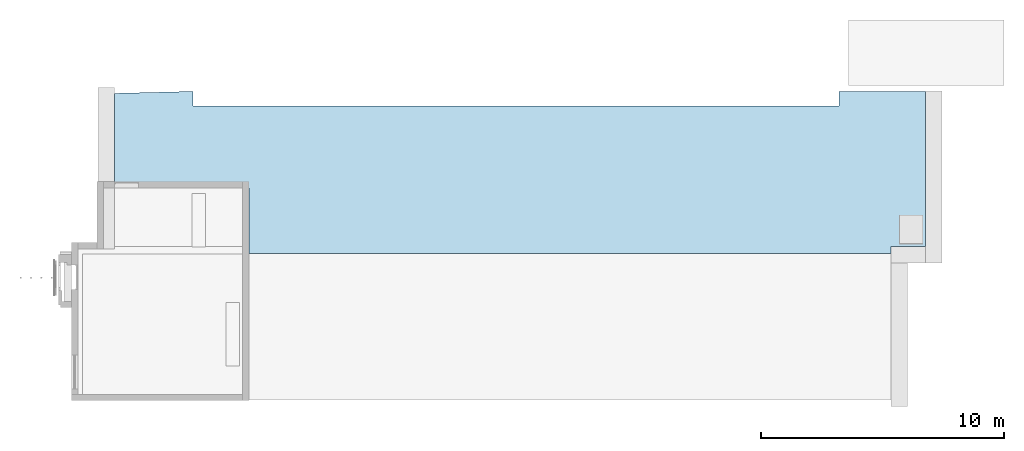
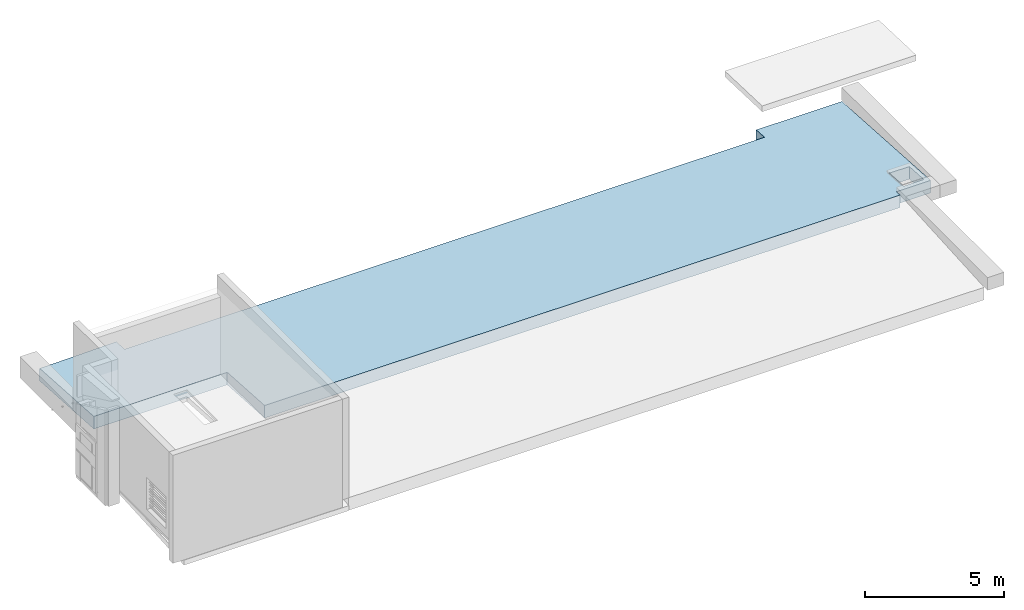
# One storey, part 3 of 6: 1 roof.
"""IFC2X3 building model written with IfcOpenShell, lengths in millimetres."""

from ifc_helpers import new_model, entity, si_unit, converted_unit, derived_unit, direction, frame, origin, place, context, subcontext, project, spatial, faceted_brep, material, element, save


model = new_model("IFC2X3")

# Units and contexts
model_context = context("Model", 3, precision=0.01, world=origin(), true_north=direction((6.12303176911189e-17, 1.0)))
body_context = subcontext(model_context, "Body", "Model", "MODEL_VIEW")
ifc_project = project(units=[si_unit("LENGTHUNIT", "METRE", prefix="MILLI"), si_unit("AREAUNIT", "SQUARE_METRE"), si_unit("VOLUMEUNIT", "CUBIC_METRE"), converted_unit("PLANEANGLEUNIT", "DEGREE", entity("IfcRatioMeasure", 0.0174532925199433), si_unit("PLANEANGLEUNIT", "RADIAN"), dimensions=[0, 0, 0, 0, 0, 0, 0]), si_unit("MASSUNIT", "GRAM", prefix="KILO"), derived_unit("MASSDENSITYUNIT", [(si_unit("MASSUNIT", "GRAM", prefix="KILO"), 1), (si_unit("LENGTHUNIT", "METRE"), -3)]), si_unit("TIMEUNIT", "SECOND"), si_unit("FREQUENCYUNIT", "HERTZ"), si_unit("THERMODYNAMICTEMPERATUREUNIT", "DEGREE_CELSIUS"), derived_unit("THERMALTRANSMITTANCEUNIT", [(si_unit("MASSUNIT", "GRAM", prefix="KILO"), 1), (si_unit("THERMODYNAMICTEMPERATUREUNIT", "KELVIN"), -1), (si_unit("TIMEUNIT", "SECOND"), -3)]), derived_unit("VOLUMETRICFLOWRATEUNIT", [(si_unit("LENGTHUNIT", "METRE"), 3), (si_unit("TIMEUNIT", "SECOND"), -1)]), si_unit("ELECTRICCURRENTUNIT", "AMPERE"), si_unit("ELECTRICVOLTAGEUNIT", "VOLT"), si_unit("POWERUNIT", "WATT"), si_unit("FORCEUNIT", "NEWTON", prefix="KILO"), si_unit("ILLUMINANCEUNIT", "LUX"), si_unit("LUMINOUSFLUXUNIT", "LUMEN"), si_unit("LUMINOUSINTENSITYUNIT", "CANDELA"), derived_unit("USERDEFINED", [(si_unit("MASSUNIT", "GRAM", prefix="KILO"), -1), (si_unit("LENGTHUNIT", "METRE"), -2), (si_unit("TIMEUNIT", "SECOND"), 3), (si_unit("LUMINOUSFLUXUNIT", "LUMEN"), 1)]), derived_unit("LINEARVELOCITYUNIT", [(si_unit("LENGTHUNIT", "METRE"), 1), (si_unit("TIMEUNIT", "SECOND"), -1)]), si_unit("PRESSUREUNIT", "PASCAL"), derived_unit("USERDEFINED", [(si_unit("LENGTHUNIT", "METRE"), -2), (si_unit("MASSUNIT", "GRAM", prefix="KILO"), 1), (si_unit("TIMEUNIT", "SECOND"), -2)])], contexts=[model_context])

# Site, building, storey
site_placement = place(None, frame((-151.875543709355, 2715.0, 0.0)))
site = spatial("IfcSite", under=ifc_project, at=site_placement, Name="Surface", CompositionType="ELEMENT")
building_placement = place(site_placement, origin())
building = spatial("IfcBuilding", under=site, at=building_placement, CompositionType="ELEMENT")
storey_placement = place(building_placement, frame((0.0, 0.0, 13600.0)))
storey = spatial("IfcBuildingStorey", under=building, at=storey_placement, Name="Katusekorrus", CompositionType="ELEMENT", Elevation=13600.0000000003)

# Roof
ifc_material = material(Name="Betoon paneel")
roof_placement = place(storey_placement, frame((1770.0, 6299.95231628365, -603.964945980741)))
element("IfcRoof", 1, at=roof_placement, inside=storey, material=ifc_material, Name="Basic Roof:KL-1_olemasolev rekonstrueeritav katus", ObjectType="Basic Roof:KL-1_olemasolev rekonstrueeritav katus", ShapeType="NOTDEFINED", context=body_context, shape_type="Brep", body=[
    faceted_brep([(3230.07439884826, 6060.00693385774, 589.891364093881), (29831.6162681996, 6060.00693385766, 589.891364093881), (29831.6162681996, 6060.00693385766, 38.7673064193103), (3230.07439884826, 6060.00693385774, 38.7673064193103), (0.0, 6584.89874812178, 5.1920348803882), (0.0, 2690.04768371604, 254.3303878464), (0.0, 2690.04768371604, 805.45444552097), (0.0, 6584.89874812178, 556.316092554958), (33396.6162682, 270.047683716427, 409.128300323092), (33396.6162682, 6659.88318966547, 0.395574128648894), (33396.6162682, 6659.88318966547, 551.519631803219), (33396.6162682, 270.047683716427, 960.252357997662), (31971.6162682, 0.0, 426.402191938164), (5546.49349250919, 0.0, 426.402191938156), (5546.49349250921, 2690.04768371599, 254.330387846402), (3230.07439884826, 6666.06731305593, 0.0), (29831.6162681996, 6659.88318966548, 0.395574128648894), (31971.6162682, 270.047683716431, 409.128300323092), (33218.40093204, 1500.47834675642, 330.422474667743), (32380.38446684, 1500.47834675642, 330.422474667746), (32380.38446684, 456.89080533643, 397.176678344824), (33218.40093204, 456.890805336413, 397.176678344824), (5546.49349250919, 0.0, 977.526249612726), (31971.6162682, 0.0, 977.526249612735), (31971.6162682, 270.047683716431, 960.252357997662), (29831.6162681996, 6659.88318966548, 551.519631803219), (3230.07439884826, 6666.06731305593, 551.12405767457), (5546.49349250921, 2690.04768371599, 805.454445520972), (32380.38446684, 1500.47834675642, 881.546532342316), (33218.40093204, 1500.47834675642, 881.546532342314), (33218.40093204, 456.89080533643, 948.300736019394), (32380.38446684, 456.890805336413, 948.300736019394)], [[[0, 1, 2, 3]], [[4, 5, 6, 7]], [[8, 9, 10, 11]], [[12, 13, 14, 5, 4, 15, 3, 2, 16, 9, 8, 17], [18, 19, 20, 21]], [[22, 23, 24, 11, 10, 25, 1, 0, 26, 7, 6, 27], [28, 29, 30, 31]], [[13, 12, 23, 22]], [[12, 17, 24, 23]], [[17, 8, 11, 24]], [[16, 2, 1, 25]], [[9, 16, 25, 10]], [[15, 4, 7, 26]], [[3, 15, 26, 0]], [[28, 19, 18, 29]], [[29, 18, 21, 30]], [[30, 21, 20, 31]], [[19, 28, 31, 20]], [[5, 14, 27, 6]], [[14, 13, 22, 27]]]),
])

save(model, "model.ifc")
